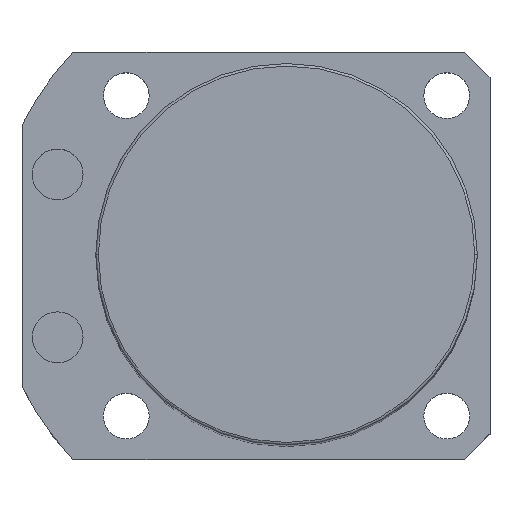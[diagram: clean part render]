
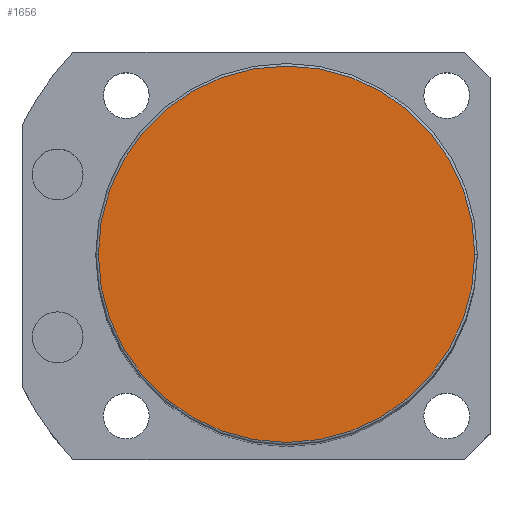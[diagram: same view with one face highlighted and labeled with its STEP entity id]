
A CAD part, top view. The second image highlights one B-rep face of the part: STEP entity #1656.
In plain terms, the highlighted planar face has unit normal (0, 0, 1).
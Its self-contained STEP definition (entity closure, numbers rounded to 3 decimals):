
#12 = EDGE_LOOP ( 'NONE', ( #1319, #458 ) ) ;
#66 = VERTEX_POINT ( 'NONE', #1028 ) ;
#90 = DIRECTION ( 'NONE',  ( 0., 0., 1. ) ) ;
#171 = CIRCLE ( 'NONE', #1919, 37. ) ;
#215 = EDGE_CURVE ( 'NONE', #1119, #66, #171, .T. ) ;
#302 = DIRECTION ( 'NONE',  ( 0., 0., 1. ) ) ;
#384 = CARTESIAN_POINT ( 'NONE',  ( 37., 0., 200.5 ) ) ;
#458 = ORIENTED_EDGE ( 'NONE', *, *, #1880, .T. ) ;
#647 = DIRECTION ( 'NONE',  ( 1., 0., 0. ) ) ;
#1028 = CARTESIAN_POINT ( 'NONE',  ( -37., 0., 200.5 ) ) ;
#1078 = CARTESIAN_POINT ( 'NONE',  ( 0., 0., 200.5 ) ) ;
#1119 = VERTEX_POINT ( 'NONE', #384 ) ;
#1266 = CARTESIAN_POINT ( 'NONE',  ( 0., 0., 200.5 ) ) ;
#1319 = ORIENTED_EDGE ( 'NONE', *, *, #215, .T. ) ;
#1450 = DIRECTION ( 'NONE',  ( 0., 0., 1. ) ) ;
#1453 = PLANE ( 'NONE',  #1947 ) ;
#1563 = AXIS2_PLACEMENT_3D ( 'NONE', #2205, #90, #647 ) ;
#1648 = DIRECTION ( 'NONE',  ( 1., 0., 0. ) ) ;
#1656 = ADVANCED_FACE ( 'NONE', ( #2206 ), #1453, .T. ) ;
#1880 = EDGE_CURVE ( 'NONE', #66, #1119, #2283, .T. ) ;
#1919 = AXIS2_PLACEMENT_3D ( 'NONE', #1078, #1450, #2403 ) ;
#1947 = AXIS2_PLACEMENT_3D ( 'NONE', #1266, #302, #1648 ) ;
#2205 = CARTESIAN_POINT ( 'NONE',  ( 0., 0., 200.5 ) ) ;
#2206 = FACE_OUTER_BOUND ( 'NONE', #12, .T. ) ;
#2283 = CIRCLE ( 'NONE', #1563, 37. ) ;
#2403 = DIRECTION ( 'NONE',  ( 1., 0., 0. ) ) ;
